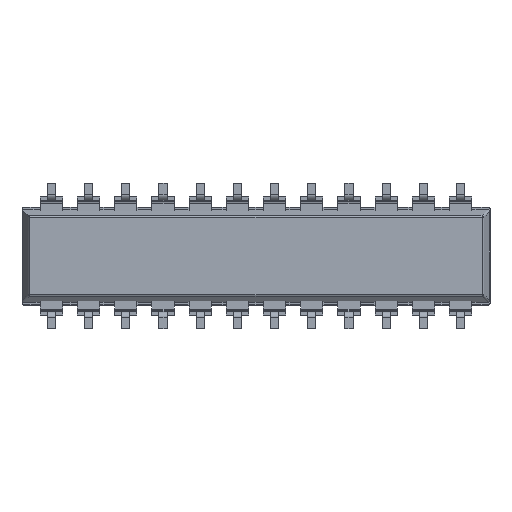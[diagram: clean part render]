
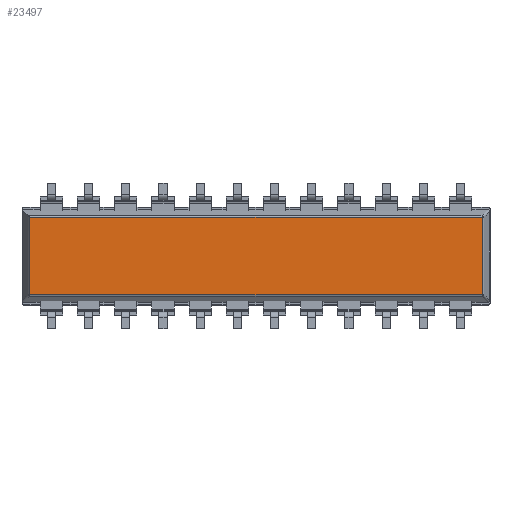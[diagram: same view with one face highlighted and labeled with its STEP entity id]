
A CAD part, top view. The second image highlights one B-rep face of the part: STEP entity #23497.
In plain terms, the highlighted planar face has unit normal (0, 0, 1).
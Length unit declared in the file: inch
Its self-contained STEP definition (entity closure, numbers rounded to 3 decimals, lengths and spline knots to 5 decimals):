
#8552=DIRECTION('',(-1.,0.,0.));
#8553=VECTOR('',#8552,1.215);
#8554=CARTESIAN_POINT('',(1.2365,0.104,0.145));
#8555=LINE('',#8554,#8553);
#8556=DIRECTION('',(0.,1.,0.));
#8557=VECTOR('',#8556,0.208);
#8558=CARTESIAN_POINT('',(1.2365,-0.104,0.145));
#8559=LINE('',#8558,#8557);
#8560=DIRECTION('',(-1.,0.,0.));
#8561=VECTOR('',#8560,1.215);
#8562=CARTESIAN_POINT('',(1.2365,-0.104,0.145));
#8563=LINE('',#8562,#8561);
#8564=DIRECTION('',(0.,-1.,0.));
#8565=VECTOR('',#8564,0.208);
#8566=CARTESIAN_POINT('',(0.0215,0.104,0.145));
#8567=LINE('',#8566,#8565);
#9514=CARTESIAN_POINT('',(1.2365,0.104,0.145));
#9515=CARTESIAN_POINT('',(0.0215,0.104,0.145));
#9516=VERTEX_POINT('',#9514);
#9517=VERTEX_POINT('',#9515);
#9518=CARTESIAN_POINT('',(0.0215,-0.104,0.145));
#9519=VERTEX_POINT('',#9518);
#9520=CARTESIAN_POINT('',(1.2365,-0.104,0.145));
#9521=VERTEX_POINT('',#9520);
#23485=CARTESIAN_POINT('',(0.,0.1075,0.145));
#23486=DIRECTION('',(0.,0.,1.));
#23487=DIRECTION('',(0.,-1.,0.));
#23488=AXIS2_PLACEMENT_3D('',#23485,#23486,#23487);
#23489=PLANE('',#23488);
#23490=ORIENTED_EDGE('',*,*,#23453,.F.);
#23491=ORIENTED_EDGE('',*,*,#23476,.F.);
#23493=ORIENTED_EDGE('',*,*,#23492,.T.);
#23494=ORIENTED_EDGE('',*,*,#23438,.F.);
#23495=EDGE_LOOP('',(#23490,#23491,#23493,#23494));
#23496=FACE_OUTER_BOUND('',#23495,.F.);
#23497=ADVANCED_FACE('',(#23496),#23489,.T.);
#23438=EDGE_CURVE('',#9517,#9519,#8567,.T.);
#23453=EDGE_CURVE('',#9516,#9517,#8555,.T.);
#23476=EDGE_CURVE('',#9521,#9516,#8559,.T.);
#23492=EDGE_CURVE('',#9521,#9519,#8563,.T.);
